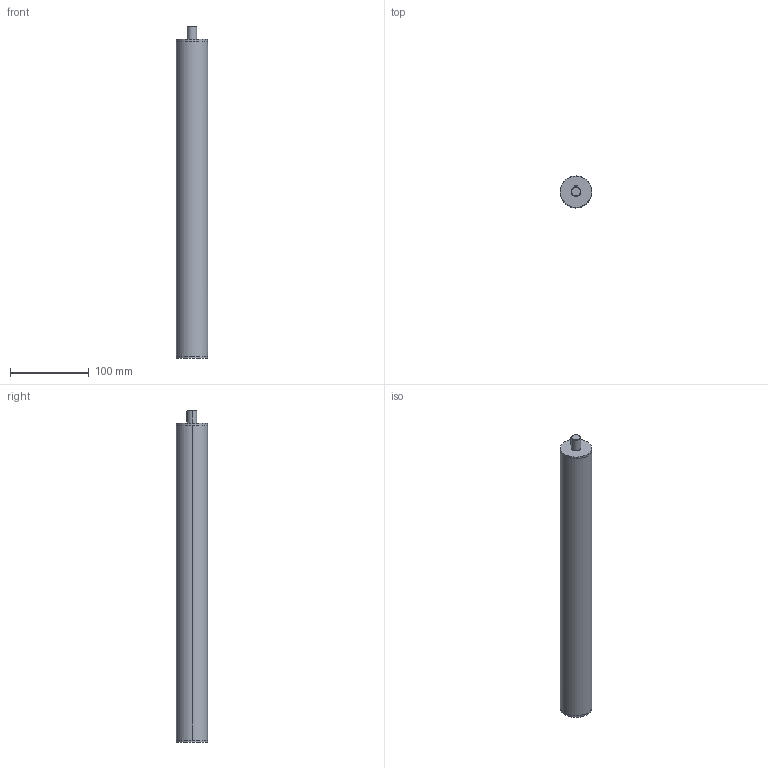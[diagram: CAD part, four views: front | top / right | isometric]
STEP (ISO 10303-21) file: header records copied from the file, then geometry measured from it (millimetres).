
FILE_DESCRIPTION (( 'STEP AP214' ), '1' );
FILE_NAME ('291-40-170-R1-SCR.step', '2023-08-30T05:20:58', ( '' ), ( '' ), 'SwSTEP 2.0', 'SolidWorks 2022', '' );
FILE_SCHEMA (( 'AUTOMOTIVE_DESIGN' ));
Length unit declared in the file: millimetre
Products named in the file (3): WB2910 mutter^WBVES_Tr20-M5; WB2910 Rund^WBVES_40-170-1; 291-40-170-R1-SCR
Assembly tree (2 placements, depth 2):
  291-40-170-R1-SCR
    WB2910 mutter^WBVES_Tr20-M5
    WB2910 Rund^WBVES_40-170-1
Bounding box: 40 x 40 x 422 mm (x, y, z)
Volume: 259360.1 mm3; surface area: 134964.9 mm2
Topology: 2 solids, 2 shells, 48 faces, 112 edges, 70 vertices
Faces by surface type: cylinder 25, plane 17, cone 6
Entity records: 1847 total; most frequent: CARTESIAN_POINT 426, DIRECTION 246, ORIENTED_EDGE 216, EDGE_CURVE 108, AXIS2_PLACEMENT_3D 96, VERTEX_POINT 70, EDGE_LOOP 58, VECTOR 54
